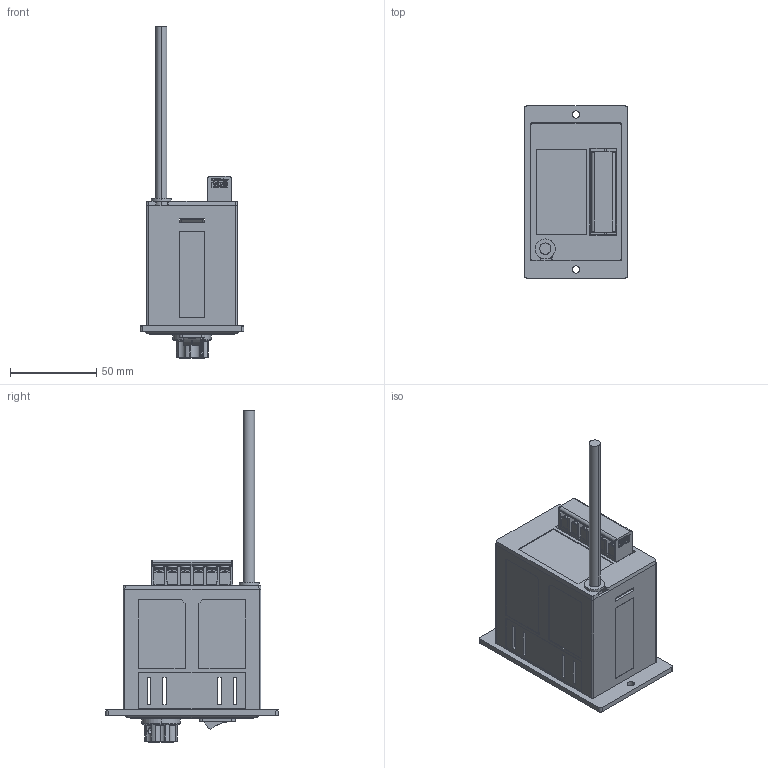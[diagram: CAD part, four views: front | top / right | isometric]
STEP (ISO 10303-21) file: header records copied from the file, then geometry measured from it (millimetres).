
FILE_DESCRIPTION (( 'STEP AP214' ), '1' );
FILE_NAME ('錨璃1^ZDRV.A11-200S2.STEP', '2022-12-05T01:20:05', ( 'Windows User' ), ( 'P R C' ), 'SwSTEP 2.0', 'SolidWorks 2019', '' );
FILE_SCHEMA (( 'AUTOMOTIVE_DESIGN' ));
Length unit declared in the file: millimetre
Products named in the file (1): 錨璃1^ZDRV.A11-200S2
Bounding box: 60 x 100 x 192.8 mm (x, y, z)
Volume: 74270.7 mm3; surface area: 75097 mm2
Topology: 8 solids, 8 shells, 4908 faces, 14004 edges, 9186 vertices
Faces by surface type: plane 4031, cylinder 456, bspline 266, cone 84, torus 47, sphere 24
Entity records: 182531 total; most frequent: CARTESIAN_POINT 62976, ORIENTED_EDGE 27932, DIRECTION 20129, EDGE_CURVE 13966, VECTOR 9195, LINE 9195, VERTEX_POINT 9180, AXIS2_PLACEMENT_3D 5467
